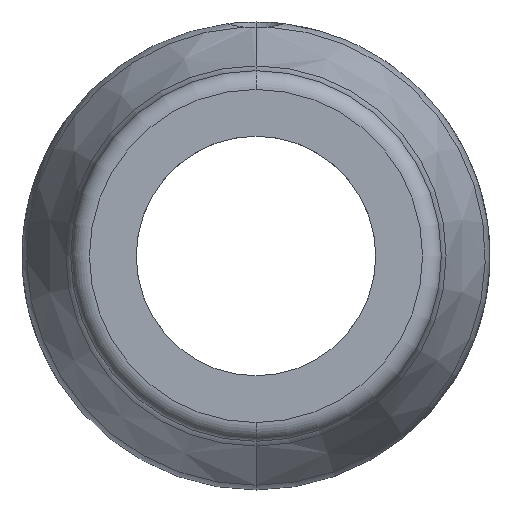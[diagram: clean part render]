
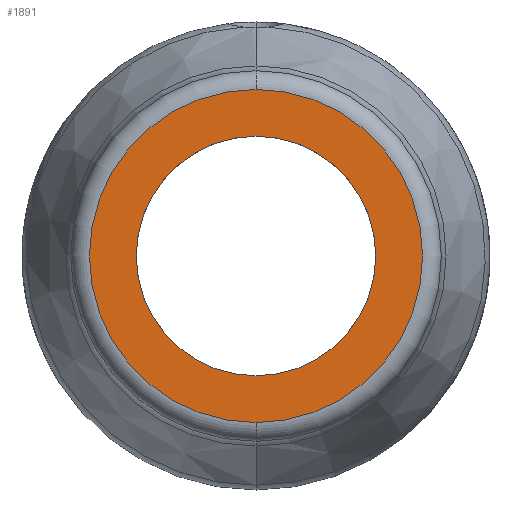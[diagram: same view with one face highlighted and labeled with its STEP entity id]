
A CAD part, left-side view. The second image highlights one B-rep face of the part: STEP entity #1891.
In plain terms, the highlighted planar face has unit normal (-1, 0, 0).
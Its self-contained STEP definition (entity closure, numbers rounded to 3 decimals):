
#4 = CARTESIAN_POINT ( 'NONE',  ( 0., 0., 0. ) ) ;
#12 = DIRECTION ( 'NONE',  ( -1., 0., 0. ) ) ;
#18 = DIRECTION ( 'NONE',  ( 0., 0., 1. ) ) ;
#61 = CIRCLE ( 'NONE', #223, 32. ) ;
#130 = CIRCLE ( 'NONE', #1325, 32. ) ;
#132 = VERTEX_POINT ( 'NONE', #680 ) ;
#136 = AXIS2_PLACEMENT_3D ( 'NONE', #1071, #1084, #1099 ) ;
#186 = CARTESIAN_POINT ( 'NONE',  ( 0., 0., 0. ) ) ;
#223 = AXIS2_PLACEMENT_3D ( 'NONE', #458, #1282, #964 ) ;
#228 = VERTEX_POINT ( 'NONE', #260 ) ;
#260 = CARTESIAN_POINT ( 'NONE',  ( 0., 0., 44.5 ) ) ;
#398 = CARTESIAN_POINT ( 'NONE',  ( 0., 0., 32. ) ) ;
#402 = ORIENTED_EDGE ( 'NONE', *, *, #1310, .F. ) ;
#458 = CARTESIAN_POINT ( 'NONE',  ( 0., 0., 0. ) ) ;
#483 = ORIENTED_EDGE ( 'NONE', *, *, #698, .F. ) ;
#534 = CARTESIAN_POINT ( 'NONE',  ( 0., 0., -32. ) ) ;
#566 = DIRECTION ( 'NONE',  ( 1., 0., 0. ) ) ;
#577 = DIRECTION ( 'NONE',  ( 0., 0., -1. ) ) ;
#587 = VERTEX_POINT ( 'NONE', #534 ) ;
#595 = DIRECTION ( 'NONE',  ( 0., 0., -1. ) ) ;
#613 = DIRECTION ( 'NONE',  ( -1., 0., 0. ) ) ;
#631 = FACE_BOUND ( 'NONE', #1297, .T. ) ;
#680 = CARTESIAN_POINT ( 'NONE',  ( 0., 0., -44.5 ) ) ;
#698 = EDGE_CURVE ( 'NONE', #587, #1750, #130, .T. ) ;
#722 = AXIS2_PLACEMENT_3D ( 'NONE', #1030, #566, #577 ) ;
#839 = EDGE_CURVE ( 'NONE', #228, #132, #1625, .T. ) ;
#889 = PLANE ( 'NONE',  #722 ) ;
#964 = DIRECTION ( 'NONE',  ( 0., 0., 1. ) ) ;
#1030 = CARTESIAN_POINT ( 'NONE',  ( 0., 32., 0. ) ) ;
#1070 = FACE_OUTER_BOUND ( 'NONE', #1306, .T. ) ;
#1071 = CARTESIAN_POINT ( 'NONE',  ( 0., 0., 0. ) ) ;
#1084 = DIRECTION ( 'NONE',  ( -1., 0., 0. ) ) ;
#1099 = DIRECTION ( 'NONE',  ( 0., 0., -1. ) ) ;
#1275 = EDGE_CURVE ( 'NONE', #132, #228, #1304, .T. ) ;
#1282 = DIRECTION ( 'NONE',  ( -1., 0., 0. ) ) ;
#1297 = EDGE_LOOP ( 'NONE', ( #402, #483 ) ) ;
#1304 = CIRCLE ( 'NONE', #1861, 44.5 ) ;
#1306 = EDGE_LOOP ( 'NONE', ( #1864, #1841 ) ) ;
#1310 = EDGE_CURVE ( 'NONE', #1750, #587, #61, .T. ) ;
#1325 = AXIS2_PLACEMENT_3D ( 'NONE', #4, #12, #18 ) ;
#1625 = CIRCLE ( 'NONE', #136, 44.5 ) ;
#1750 = VERTEX_POINT ( 'NONE', #398 ) ;
#1841 = ORIENTED_EDGE ( 'NONE', *, *, #839, .T. ) ;
#1861 = AXIS2_PLACEMENT_3D ( 'NONE', #186, #613, #595 ) ;
#1864 = ORIENTED_EDGE ( 'NONE', *, *, #1275, .T. ) ;
#1891 = ADVANCED_FACE ( 'NONE', ( #1070, #631 ), #889, .F. ) ;
